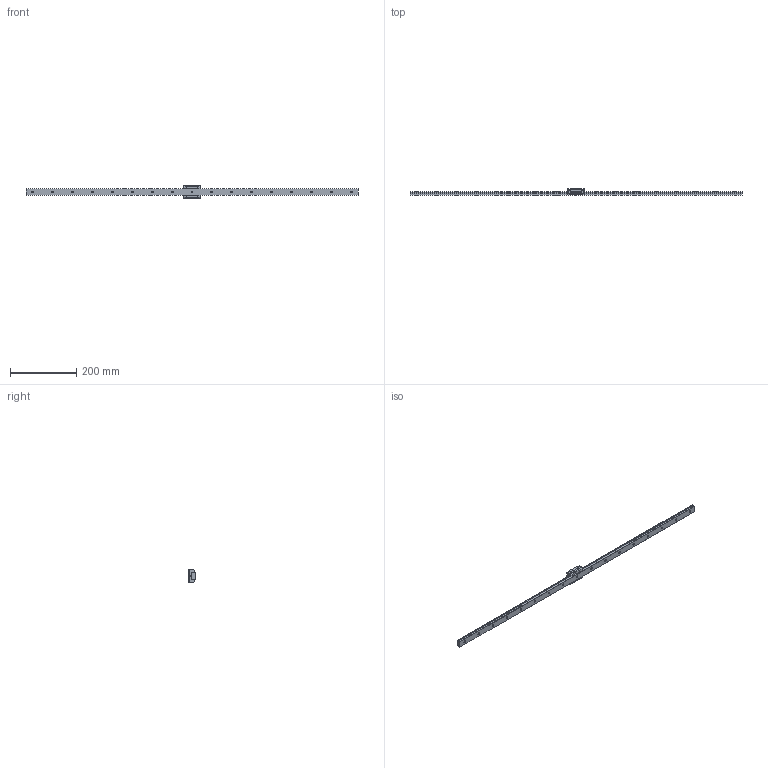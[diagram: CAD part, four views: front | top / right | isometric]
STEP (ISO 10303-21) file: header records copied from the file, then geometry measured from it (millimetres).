
FILE_DESCRIPTION( ( '' ), '1' );
FILE_NAME( 'C:/Users/v3-771-32344/Documents/Website 2016/STEP/SRS20M1UU1000200475000.stp', '2016-11-10T13:10:30', ( '' ), ( '' ), ' ', ' ', ' ' );
FILE_SCHEMA( ( 'CONFIG_CONTROL_DESIGN' ) );
Length unit declared in the file: millimetre
Products named in the file (2): 1; 2
Bounding box: 1000 x 20 x 40 mm (x, y, z)
Volume: 227305.6 mm3; surface area: 74407.7 mm2
Topology: 2 solids, 2 shells, 285 faces, 754 edges, 488 vertices
Faces by surface type: cylinder 142, plane 127, cone 16
Entity records: 8992 total; most frequent: DIRECTION 1620, CARTESIAN_POINT 1521, ORIENTED_EDGE 1492, EDGE_CURVE 746, AXIS2_PLACEMENT_3D 587, VERTEX_POINT 488, LINE 446, VECTOR 446
